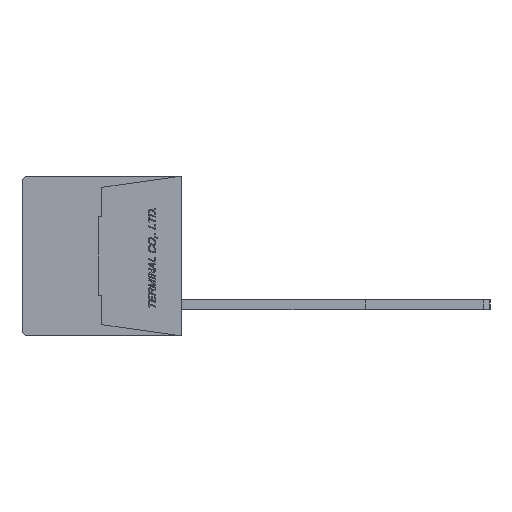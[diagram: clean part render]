
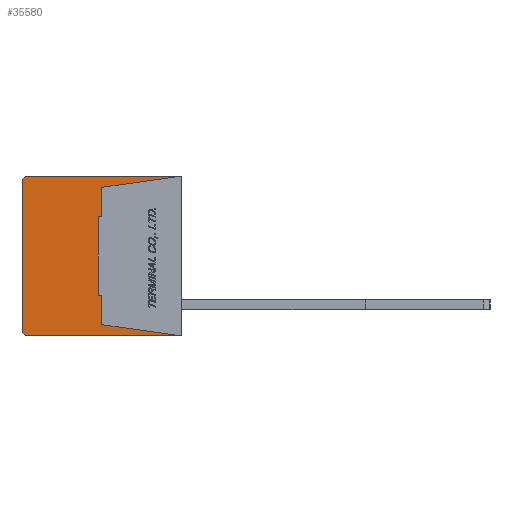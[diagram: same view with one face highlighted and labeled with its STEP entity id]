
A CAD part, left-side view. The second image highlights one B-rep face of the part: STEP entity #35580.
In plain terms, the highlighted planar face has unit normal (-1, 0, 0).
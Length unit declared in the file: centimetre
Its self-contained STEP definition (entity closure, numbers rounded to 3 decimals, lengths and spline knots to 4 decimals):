
#1808=CIRCLE('',#60841,0.05);
#1809=CIRCLE('',#60844,0.05);
#3176=VERTEX_POINT('',#49503);
#3177=VERTEX_POINT('',#49505);
#3178=VERTEX_POINT('',#49509);
#3179=VERTEX_POINT('',#49513);
#3180=VERTEX_POINT('',#49517);
#3181=VERTEX_POINT('',#49521);
#3182=VERTEX_POINT('',#49525);
#3183=VERTEX_POINT('',#49527);
#3184=VERTEX_POINT('',#49529);
#3185=VERTEX_POINT('',#49531);
#3186=VERTEX_POINT('',#49533);
#3187=VERTEX_POINT('',#49535);
#6946=VECTOR('',#41274,1.);
#6950=VECTOR('',#41283,1.);
#6953=VECTOR('',#41291,1.);
#6954=VECTOR('',#41293,1.);
#6955=VECTOR('',#41294,1.);
#6956=VECTOR('',#41295,1.);
#6957=VECTOR('',#41296,1.);
#6958=VECTOR('',#41297,1.);
#6959=VECTOR('',#41298,1.);
#6960=VECTOR('',#41299,1.);
#11126=LINE('',#49504,#6946);
#11130=LINE('',#49514,#6950);
#11133=LINE('',#49522,#6953);
#11134=LINE('',#49524,#6954);
#11135=LINE('',#49526,#6955);
#11136=LINE('',#49528,#6956);
#11137=LINE('',#49530,#6957);
#11138=LINE('',#49532,#6958);
#11139=LINE('',#49534,#6959);
#11140=LINE('',#49536,#6960);
#15790=EDGE_CURVE('',#3177,#3176,#11126,.T.);
#15793=EDGE_CURVE('',#3178,#3176,#1808,.T.);
#15795=EDGE_CURVE('',#3178,#3179,#11130,.T.);
#15797=EDGE_CURVE('',#3180,#3179,#1809,.T.);
#15799=EDGE_CURVE('',#3180,#3181,#11133,.T.);
#15800=EDGE_CURVE('',#3182,#3177,#11134,.T.);
#15801=EDGE_CURVE('',#3181,#3183,#11135,.T.);
#15802=EDGE_CURVE('',#3183,#3184,#11136,.T.);
#15803=EDGE_CURVE('',#3184,#3185,#11137,.T.);
#15804=EDGE_CURVE('',#3185,#3186,#11138,.T.);
#15805=EDGE_CURVE('',#3186,#3187,#11139,.T.);
#15806=EDGE_CURVE('',#3187,#3182,#11140,.T.);
#23043=ORIENTED_EDGE('',*,*,#15800,.T.);
#23044=ORIENTED_EDGE('',*,*,#15790,.T.);
#23045=ORIENTED_EDGE('',*,*,#15793,.F.);
#23046=ORIENTED_EDGE('',*,*,#15795,.T.);
#23047=ORIENTED_EDGE('',*,*,#15797,.F.);
#23048=ORIENTED_EDGE('',*,*,#15799,.T.);
#23049=ORIENTED_EDGE('',*,*,#15801,.T.);
#23050=ORIENTED_EDGE('',*,*,#15802,.T.);
#23051=ORIENTED_EDGE('',*,*,#15803,.T.);
#23052=ORIENTED_EDGE('',*,*,#15804,.T.);
#23053=ORIENTED_EDGE('',*,*,#15805,.T.);
#23054=ORIENTED_EDGE('',*,*,#15806,.T.);
#30976=EDGE_LOOP('',(#23043,#23044,#23045,#23046,#23047,#23048,#23049,#23050,
#23051,#23052,#23053,#23054));
#33336=FACE_BOUND('',#30976,.T.);
#35580=ADVANCED_FACE('',(#33336),#37516,.F.);
#37516=PLANE('',#60846);
#41274=DIRECTION('',(0.,1.,0.));
#41279=DIRECTION('',(1.,0.,0.));
#41280=DIRECTION('',(0.,0.,-0.05));
#41283=DIRECTION('',(0.,0.,-1.));
#41287=DIRECTION('',(1.,0.,0.));
#41288=DIRECTION('',(0.,0.,-0.05));
#41291=DIRECTION('',(0.,-1.,0.));
#41292=DIRECTION('',(1.,0.,0.));
#41293=DIRECTION('',(0.,-0.99,0.139));
#41294=DIRECTION('',(0.,0.99,0.139));
#41295=DIRECTION('',(0.,0.,1.));
#41296=DIRECTION('',(0.,1.,0.));
#41297=DIRECTION('',(0.,0.,1.));
#41298=DIRECTION('',(0.,-1.,0.));
#41299=DIRECTION('',(0.,0.,1.));
#49503=CARTESIAN_POINT('',(-1.,1.23,0.64));
#49504=CARTESIAN_POINT('',(-1.,0.,0.64));
#49505=CARTESIAN_POINT('',(-1.,0.,0.64));
#49509=CARTESIAN_POINT('',(-1.,1.28,0.59));
#49510=CARTESIAN_POINT('',(-1.,1.23,0.59));
#49513=CARTESIAN_POINT('',(-1.,1.28,-0.59));
#49514=CARTESIAN_POINT('',(-1.,1.28,0.59));
#49517=CARTESIAN_POINT('',(-1.,1.23,-0.64));
#49518=CARTESIAN_POINT('',(-1.,1.23,-0.59));
#49521=CARTESIAN_POINT('',(-1.,0.,-0.64));
#49522=CARTESIAN_POINT('',(-1.,1.23,-0.64));
#49523=CARTESIAN_POINT('',(-1.,0.6345,0.));
#49524=CARTESIAN_POINT('',(-1.,0.64,0.55));
#49525=CARTESIAN_POINT('',(-1.,0.64,0.55));
#49526=CARTESIAN_POINT('',(-1.,0.,-0.64));
#49527=CARTESIAN_POINT('',(-1.,0.64,-0.55));
#49528=CARTESIAN_POINT('',(-1.,0.64,-0.55));
#49529=CARTESIAN_POINT('',(-1.,0.64,-0.315));
#49530=CARTESIAN_POINT('',(-1.,0.64,-0.315));
#49531=CARTESIAN_POINT('',(-1.,0.67,-0.315));
#49532=CARTESIAN_POINT('',(-1.,0.67,-0.315));
#49533=CARTESIAN_POINT('',(-1.,0.67,0.315));
#49534=CARTESIAN_POINT('',(-1.,0.67,0.315));
#49535=CARTESIAN_POINT('',(-1.,0.64,0.315));
#49536=CARTESIAN_POINT('',(-1.,0.64,0.315));
#60841=AXIS2_PLACEMENT_3D('',#49510,#41279,#41280);
#60844=AXIS2_PLACEMENT_3D('',#49518,#41287,#41288);
#60846=AXIS2_PLACEMENT_3D('',#49523,#41292,$);
